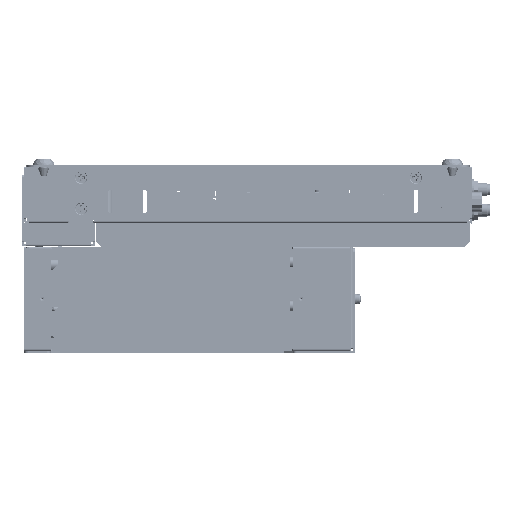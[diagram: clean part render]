
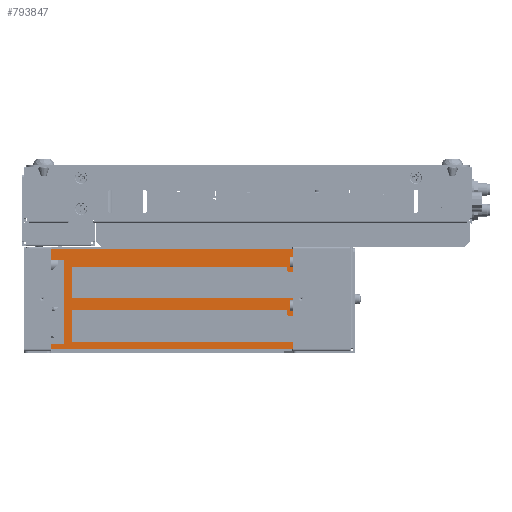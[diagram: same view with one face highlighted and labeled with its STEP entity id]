
A CAD part, left-side view. The second image highlights one B-rep face of the part: STEP entity #793847.
In plain terms, the highlighted planar face has unit normal (-1, 0, 0).
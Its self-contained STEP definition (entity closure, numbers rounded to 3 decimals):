
#230389=DIRECTION('',(0.,1.,0.));
#230390=VECTOR('',#230389,112.35);
#230391=CARTESIAN_POINT('',(-94.1,83.25,-81.));
#230392=LINE('',#230391,#230390);
#230565=DIRECTION('',(0.,1.,0.));
#230566=VECTOR('',#230565,102.505);
#230567=CARTESIAN_POINT('',(-94.1,83.25,-77.67));
#230568=LINE('',#230567,#230566);
#230752=DIRECTION('',(0.,1.,0.));
#230753=VECTOR('',#230752,102.505);
#230754=CARTESIAN_POINT('',(-94.1,83.25,-57.35));
#230755=LINE('',#230754,#230753);
#230772=DIRECTION('',(0.,-1.,0.));
#230773=VECTOR('',#230772,1.505);
#230774=CARTESIAN_POINT('',(-94.1,84.755,-65.67));
#230775=LINE('',#230774,#230773);
#230810=DIRECTION('',(0.,0.,-1.));
#230811=VECTOR('',#230810,1.5);
#230812=CARTESIAN_POINT('',(-94.1,85.755,-63.17));
#230813=LINE('',#230812,#230811);
#230822=DIRECTION('',(0.,-1.,0.));
#230823=VECTOR('',#230822,100.);
#230824=CARTESIAN_POINT('',(-94.1,185.755,-63.17));
#230825=LINE('',#230824,#230823);
#230834=DIRECTION('',(0.,0.,1.));
#230835=VECTOR('',#230834,14.5);
#230836=CARTESIAN_POINT('',(-94.1,185.755,-77.67));
#230837=LINE('',#230836,#230835);
#230838=DIRECTION('',(0.,-1.,0.));
#230839=VECTOR('',#230838,6.);
#230840=CARTESIAN_POINT('',(-94.1,195.6,-39.6));
#230841=LINE('',#230840,#230839);
#230842=DIRECTION('',(0.,0.,-1.));
#230843=VECTOR('',#230842,5.);
#230844=CARTESIAN_POINT('',(-94.1,195.6,-34.6));
#230845=LINE('',#230844,#230843);
#230846=DIRECTION('',(0.,1.,0.));
#230847=VECTOR('',#230846,112.35);
#230848=CARTESIAN_POINT('',(-94.1,83.25,-34.6));
#230849=LINE('',#230848,#230847);
#230850=DIRECTION('',(0.,0.,1.));
#230851=VECTOR('',#230850,10.75);
#230852=CARTESIAN_POINT('',(-94.1,83.25,-45.35));
#230853=LINE('',#230852,#230851);
#230854=DIRECTION('',(0.,-1.,0.));
#230855=VECTOR('',#230854,1.505);
#230856=CARTESIAN_POINT('',(-94.1,84.755,-45.35));
#230857=LINE('',#230856,#230855);
#230858=CARTESIAN_POINT('',(-94.1,84.755,-44.35));
#230859=DIRECTION('',(-1.,0.,0.));
#230860=DIRECTION('',(0.,1.,0.));
#230861=AXIS2_PLACEMENT_3D('',#230858,#230859,#230860);
#230863=DIRECTION('',(0.,0.,1.));
#230864=VECTOR('',#230863,8.32);
#230865=CARTESIAN_POINT('',(-94.1,83.25,-65.67));
#230866=LINE('',#230865,#230864);
#230867=CARTESIAN_POINT('',(-94.1,84.755,-64.67));
#230868=DIRECTION('',(-1.,0.,0.));
#230869=DIRECTION('',(0.,1.,0.));
#230870=AXIS2_PLACEMENT_3D('',#230867,#230868,#230869);
#230872=DIRECTION('',(0.,0.,1.));
#230873=VECTOR('',#230872,3.33);
#230874=CARTESIAN_POINT('',(-94.1,83.25,-81.));
#230875=LINE('',#230874,#230873);
#230876=DIRECTION('',(0.,0.,-1.));
#230877=VECTOR('',#230876,2.);
#230878=CARTESIAN_POINT('',(-94.1,195.6,-79.));
#230879=LINE('',#230878,#230877);
#230948=DIRECTION('',(0.,1.,0.));
#230949=VECTOR('',#230948,6.);
#230950=CARTESIAN_POINT('',(-94.1,189.6,-79.));
#230951=LINE('',#230950,#230949);
#230977=DIRECTION('',(0.,0.,-1.));
#230978=VECTOR('',#230977,39.4);
#230979=CARTESIAN_POINT('',(-94.1,189.6,-39.6));
#230980=LINE('',#230979,#230978);
#231421=DIRECTION('',(0.,0.,-1.));
#231422=VECTOR('',#231421,1.5);
#231423=CARTESIAN_POINT('',(-94.1,85.755,-42.85));
#231424=LINE('',#231423,#231422);
#231429=DIRECTION('',(0.,-1.,0.));
#231430=VECTOR('',#231429,100.);
#231431=CARTESIAN_POINT('',(-94.1,185.755,-42.85));
#231432=LINE('',#231431,#231430);
#231441=DIRECTION('',(0.,0.,1.));
#231442=VECTOR('',#231441,14.5);
#231443=CARTESIAN_POINT('',(-94.1,185.755,-57.35));
#231444=LINE('',#231443,#231442);
#374403=CARTESIAN_POINT('',(-94.1,189.6,-39.6));
#374404=VERTEX_POINT('',#374403);
#374405=CARTESIAN_POINT('',(-94.1,195.6,-39.6));
#374406=VERTEX_POINT('',#374405);
#374416=CARTESIAN_POINT('',(-94.1,195.6,-34.6));
#374418=VERTEX_POINT('',#374416);
#374427=CARTESIAN_POINT('',(-94.1,83.25,-34.6));
#374428=VERTEX_POINT('',#374427);
#374439=CARTESIAN_POINT('',(-94.1,195.6,-81.));
#374440=VERTEX_POINT('',#374439);
#374441=CARTESIAN_POINT('',(-94.1,195.6,-79.));
#374442=VERTEX_POINT('',#374441);
#374529=CARTESIAN_POINT('',(-94.1,83.25,-45.35));
#374530=VERTEX_POINT('',#374529);
#374539=CARTESIAN_POINT('',(-94.1,83.25,-57.35));
#374540=VERTEX_POINT('',#374539);
#374541=CARTESIAN_POINT('',(-94.1,83.25,-65.67));
#374542=VERTEX_POINT('',#374541);
#374551=CARTESIAN_POINT('',(-94.1,83.25,-77.67));
#374552=VERTEX_POINT('',#374551);
#374553=CARTESIAN_POINT('',(-94.1,83.25,-81.));
#374554=VERTEX_POINT('',#374553);
#374595=CARTESIAN_POINT('',(-94.1,84.755,-45.35));
#374596=VERTEX_POINT('',#374595);
#374597=CARTESIAN_POINT('',(-94.1,85.755,-44.35));
#374598=VERTEX_POINT('',#374597);
#374599=CARTESIAN_POINT('',(-94.1,85.755,-42.85));
#374600=VERTEX_POINT('',#374599);
#374601=CARTESIAN_POINT('',(-94.1,185.755,-42.85));
#374602=VERTEX_POINT('',#374601);
#374603=CARTESIAN_POINT('',(-94.1,185.755,-57.35));
#374604=VERTEX_POINT('',#374603);
#374605=CARTESIAN_POINT('',(-94.1,84.755,-65.67));
#374606=VERTEX_POINT('',#374605);
#374607=CARTESIAN_POINT('',(-94.1,85.755,-64.67));
#374608=VERTEX_POINT('',#374607);
#374609=CARTESIAN_POINT('',(-94.1,85.755,-63.17));
#374610=VERTEX_POINT('',#374609);
#374611=CARTESIAN_POINT('',(-94.1,185.755,-63.17));
#374612=VERTEX_POINT('',#374611);
#374613=CARTESIAN_POINT('',(-94.1,185.755,-77.67));
#374614=VERTEX_POINT('',#374613);
#374615=CARTESIAN_POINT('',(-94.1,189.6,-79.));
#374616=VERTEX_POINT('',#374615);
#793808=CARTESIAN_POINT('',(-94.1,139.425,-57.8));
#793809=DIRECTION('',(1.,0.,0.));
#793810=DIRECTION('',(0.,1.,0.));
#793811=AXIS2_PLACEMENT_3D('',#793808,#793809,#793810);
#793812=PLANE('',#793811);
#793813=ORIENTED_EDGE('',*,*,#793034,.F.);
#793815=ORIENTED_EDGE('',*,*,#793814,.F.);
#793817=ORIENTED_EDGE('',*,*,#793816,.F.);
#793818=ORIENTED_EDGE('',*,*,#792865,.F.);
#793820=ORIENTED_EDGE('',*,*,#793819,.F.);
#793822=ORIENTED_EDGE('',*,*,#793821,.F.);
#793824=ORIENTED_EDGE('',*,*,#793823,.F.);
#793826=ORIENTED_EDGE('',*,*,#793825,.F.);
#793828=ORIENTED_EDGE('',*,*,#793827,.F.);
#793829=ORIENTED_EDGE('',*,*,#793658,.F.);
#793830=ORIENTED_EDGE('',*,*,#792853,.F.);
#793831=ORIENTED_EDGE('',*,*,#793708,.F.);
#793832=ORIENTED_EDGE('',*,*,#793733,.F.);
#793833=ORIENTED_EDGE('',*,*,#793754,.F.);
#793834=ORIENTED_EDGE('',*,*,#793775,.F.);
#793835=ORIENTED_EDGE('',*,*,#793795,.F.);
#793836=ORIENTED_EDGE('',*,*,#793272,.F.);
#793837=ORIENTED_EDGE('',*,*,#792841,.F.);
#793838=ORIENTED_EDGE('',*,*,#792923,.T.);
#793840=ORIENTED_EDGE('',*,*,#793839,.F.);
#793842=ORIENTED_EDGE('',*,*,#793841,.F.);
#793844=ORIENTED_EDGE('',*,*,#793843,.F.);
#793845=EDGE_LOOP('',(#793813,#793815,#793817,#793818,#793820,#793822,#793824,
#793826,#793828,#793829,#793830,#793831,#793832,#793833,#793834,#793835,#793836,
#793837,#793838,#793840,#793842,#793844));
#793846=FACE_OUTER_BOUND('',#793845,.F.);
#793847=ADVANCED_FACE('',(#793846),#793812,.F.);
#230862=CIRCLE('',#230861,1.);
#230871=CIRCLE('',#230870,1.);
#792841=EDGE_CURVE('',#374554,#374552,#230875,.T.);
#792853=EDGE_CURVE('',#374542,#374540,#230866,.T.);
#792865=EDGE_CURVE('',#374530,#374428,#230853,.T.);
#792923=EDGE_CURVE('',#374554,#374440,#230392,.T.);
#793034=EDGE_CURVE('',#374406,#374404,#230841,.T.);
#793272=EDGE_CURVE('',#374552,#374614,#230568,.T.);
#793658=EDGE_CURVE('',#374540,#374604,#230755,.T.);
#793708=EDGE_CURVE('',#374606,#374542,#230775,.T.);
#793733=EDGE_CURVE('',#374608,#374606,#230871,.T.);
#793754=EDGE_CURVE('',#374610,#374608,#230813,.T.);
#793775=EDGE_CURVE('',#374612,#374610,#230825,.T.);
#793795=EDGE_CURVE('',#374614,#374612,#230837,.T.);
#793814=EDGE_CURVE('',#374418,#374406,#230845,.T.);
#793816=EDGE_CURVE('',#374428,#374418,#230849,.T.);
#793819=EDGE_CURVE('',#374596,#374530,#230857,.T.);
#793821=EDGE_CURVE('',#374598,#374596,#230862,.T.);
#793823=EDGE_CURVE('',#374600,#374598,#231424,.T.);
#793825=EDGE_CURVE('',#374602,#374600,#231432,.T.);
#793827=EDGE_CURVE('',#374604,#374602,#231444,.T.);
#793839=EDGE_CURVE('',#374442,#374440,#230879,.T.);
#793841=EDGE_CURVE('',#374616,#374442,#230951,.T.);
#793843=EDGE_CURVE('',#374404,#374616,#230980,.T.);
